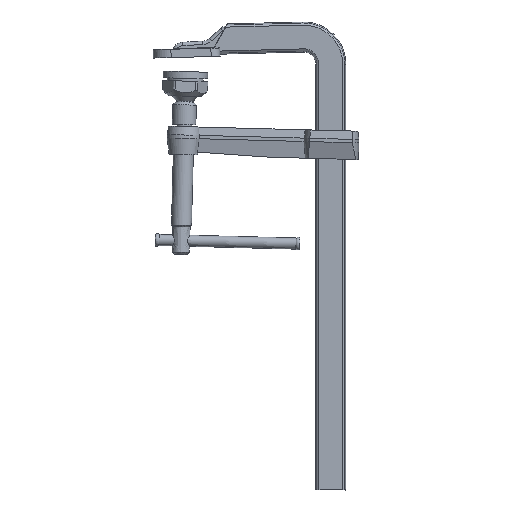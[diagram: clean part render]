
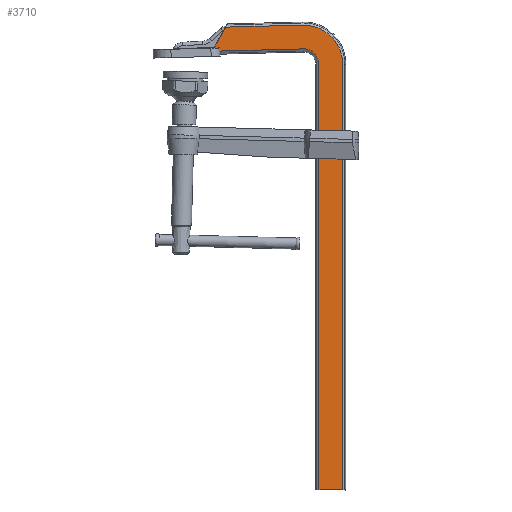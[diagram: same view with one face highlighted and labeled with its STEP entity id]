
A CAD part, front view. The second image highlights one B-rep face of the part: STEP entity #3710.
In plain terms, the highlighted free-form (B-spline) face has degree [1, 1] with [2, 2] control points.
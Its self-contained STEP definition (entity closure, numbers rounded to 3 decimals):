
#3500=CARTESIAN_POINT('',(1.8,-6.5,0.));
#3501=VERTEX_POINT('',#3500);
#3516=CARTESIAN_POINT('',(1.8,-6.5,-383.));
#3517=VERTEX_POINT('',#3516);
#3523=CARTESIAN_POINT('',(1.8,-6.5,-383.));
#3524=CARTESIAN_POINT('',(1.8,-6.5,0.));
#3525=B_SPLINE_CURVE_WITH_KNOTS('',1,(#3523,#3524),.POLYLINE_FORM.,.F.,.U.,(2,2),(0.439,1.),.UNSPECIFIED.);
#3526=EDGE_CURVE('',#3517,#3501,#3525,.T.);
#3620=CARTESIAN_POINT('',(23.2,-6.5,0.));
#3621=VERTEX_POINT('',#3620);
#3628=CARTESIAN_POINT('',(23.2,-6.5,-383.));
#3629=VERTEX_POINT('',#3628);
#3635=CARTESIAN_POINT('',(23.2,-6.5,-383.));
#3636=CARTESIAN_POINT('',(23.2,-6.5,0.));
#3637=B_SPLINE_CURVE_WITH_KNOTS('',1,(#3635,#3636),.POLYLINE_FORM.,.F.,.U.,(2,2),(0.439,1.),.UNSPECIFIED.);
#3638=EDGE_CURVE('',#3629,#3621,#3637,.T.);
#3643=CARTESIAN_POINT('',(364.476,-6.5,105.554));
#3644=CARTESIAN_POINT('',(364.476,-6.5,-732.978));
#3645=CARTESIAN_POINT('',(-474.056,-6.5,105.554));
#3646=CARTESIAN_POINT('',(-474.056,-6.5,-732.978));
#3647=B_SPLINE_SURFACE_WITH_KNOTS('',1,1,((#3643,#3644),(#3645,#3646)),.PLANE_SURF.,.F.,.F.,.U.,(2,2),(2,2),(0.,1.),(0.,1.),.UNSPECIFIED.);
#3648=ORIENTED_EDGE('',*,*,#3526,.F.);
#3649=CARTESIAN_POINT('',(1.8,-6.5,-383.));
#3650=CARTESIAN_POINT('',(23.2,-6.5,-383.));
#3651=B_SPLINE_CURVE_WITH_KNOTS('',1,(#3649,#3650),.POLYLINE_FORM.,.F.,.U.,(2,2),(0.,1.),.UNSPECIFIED.);
#3652=EDGE_CURVE('',#3517,#3629,#3651,.T.);
#3653=ORIENTED_EDGE('',*,*,#3652,.T.);
#3654=ORIENTED_EDGE('',*,*,#3638,.T.);
#3655=CARTESIAN_POINT('',(-12.921,-6.5,35.188));
#3656=VERTEX_POINT('',#3655);
#3657=CARTESIAN_POINT('',(23.2,-6.5,0.));
#3658=CARTESIAN_POINT('',(23.2,-6.5,14.851));
#3659=CARTESIAN_POINT('',(12.562,-6.5,25.214));
#3660=CARTESIAN_POINT('',(1.924,-6.5,35.577));
#3661=CARTESIAN_POINT('',(-12.921,-6.5,35.188));
#3662=(BOUNDED_CURVE()B_SPLINE_CURVE(2,(#3657,#3658,#3659,#3660,#3661),.CIRCULAR_ARC.,.F.,.U.)B_SPLINE_CURVE_WITH_KNOTS((3,2,3),(0.,0.5,1.),.UNSPECIFIED.)CURVE()GEOMETRIC_REPRESENTATION_ITEM()RATIONAL_B_SPLINE_CURVE((1.,0.921,1.,0.921,1.))REPRESENTATION_ITEM(''));
#3663=EDGE_CURVE('',#3621,#3656,#3662,.T.);
#3664=ORIENTED_EDGE('',*,*,#3663,.T.);
#3665=CARTESIAN_POINT('',(-82.161,-6.5,33.375));
#3666=VERTEX_POINT('',#3665);
#3667=CARTESIAN_POINT('',(-12.921,-6.5,35.188));
#3668=CARTESIAN_POINT('',(-82.161,-6.5,33.375));
#3669=B_SPLINE_CURVE_WITH_KNOTS('',1,(#3667,#3668),.POLYLINE_FORM.,.F.,.U.,(2,2),(0.,0.577),.UNSPECIFIED.);
#3670=EDGE_CURVE('',#3656,#3666,#3669,.T.);
#3671=ORIENTED_EDGE('',*,*,#3670,.T.);
#3672=CARTESIAN_POINT('',(-92.411,-6.5,14.497));
#3673=VERTEX_POINT('',#3672);
#3674=CARTESIAN_POINT('',(-82.161,-6.5,33.375));
#3675=CARTESIAN_POINT('',(-92.411,-6.5,14.497));
#3676=B_SPLINE_CURVE_WITH_KNOTS('',1,(#3674,#3675),.POLYLINE_FORM.,.F.,.U.,(2,2),(0.903,0.936),.UNSPECIFIED.);
#3677=EDGE_CURVE('',#3666,#3673,#3676,.T.);
#3678=ORIENTED_EDGE('',*,*,#3677,.T.);
#3679=CARTESIAN_POINT('',(-87.411,-6.5,14.628));
#3680=VERTEX_POINT('',#3679);
#3681=CARTESIAN_POINT('',(-92.411,-6.5,14.497));
#3682=CARTESIAN_POINT('',(-87.411,-6.5,14.628));
#3683=B_SPLINE_CURVE_WITH_KNOTS('',1,(#3681,#3682),.POLYLINE_FORM.,.F.,.U.,(2,2),(0.271,0.288),.UNSPECIFIED.);
#3684=EDGE_CURVE('',#3673,#3680,#3683,.T.);
#3685=ORIENTED_EDGE('',*,*,#3684,.T.);
#3686=CARTESIAN_POINT('',(-87.338,-6.5,11.832));
#3687=VERTEX_POINT('',#3686);
#3688=CARTESIAN_POINT('',(-87.411,-6.5,14.628));
#3689=CARTESIAN_POINT('',(-87.338,-6.5,11.832));
#3690=B_SPLINE_CURVE_WITH_KNOTS('',1,(#3688,#3689),.POLYLINE_FORM.,.F.,.U.,(2,2),(0.951,0.955),.UNSPECIFIED.);
#3691=EDGE_CURVE('',#3680,#3687,#3690,.T.);
#3692=ORIENTED_EDGE('',*,*,#3691,.T.);
#3693=CARTESIAN_POINT('',(-12.361,-6.5,13.795));
#3694=VERTEX_POINT('',#3693);
#3695=CARTESIAN_POINT('',(-87.338,-6.5,11.832));
#3696=CARTESIAN_POINT('',(-12.361,-6.5,13.795));
#3697=B_SPLINE_CURVE_WITH_KNOTS('',1,(#3695,#3696),.POLYLINE_FORM.,.F.,.U.,(2,2),(0.375,1.),.UNSPECIFIED.);
#3698=EDGE_CURVE('',#3687,#3694,#3697,.T.);
#3699=ORIENTED_EDGE('',*,*,#3698,.T.);
#3700=CARTESIAN_POINT('',(-12.361,-6.5,13.795));
#3701=CARTESIAN_POINT('',(-6.541,-6.5,13.948));
#3702=CARTESIAN_POINT('',(-2.37,-6.5,9.885));
#3703=CARTESIAN_POINT('',(1.8,-6.5,5.822));
#3704=CARTESIAN_POINT('',(1.8,-6.5,0.));
#3705=(BOUNDED_CURVE()B_SPLINE_CURVE(2,(#3700,#3701,#3702,#3703,#3704),.CIRCULAR_ARC.,.F.,.U.)B_SPLINE_CURVE_WITH_KNOTS((3,2,3),(0.,0.5,1.),.UNSPECIFIED.)CURVE()GEOMETRIC_REPRESENTATION_ITEM()RATIONAL_B_SPLINE_CURVE((1.,0.921,1.,0.921,1.))REPRESENTATION_ITEM(''));
#3706=EDGE_CURVE('',#3694,#3501,#3705,.T.);
#3707=ORIENTED_EDGE('',*,*,#3706,.T.);
#3708=EDGE_LOOP('',(#3648,#3653,#3654,#3664,#3671,#3678,#3685,#3692,#3699,#3707));
#3709=FACE_OUTER_BOUND('',#3708,.T.);
#3710=ADVANCED_FACE('',(#3709),#3647,.T.);
